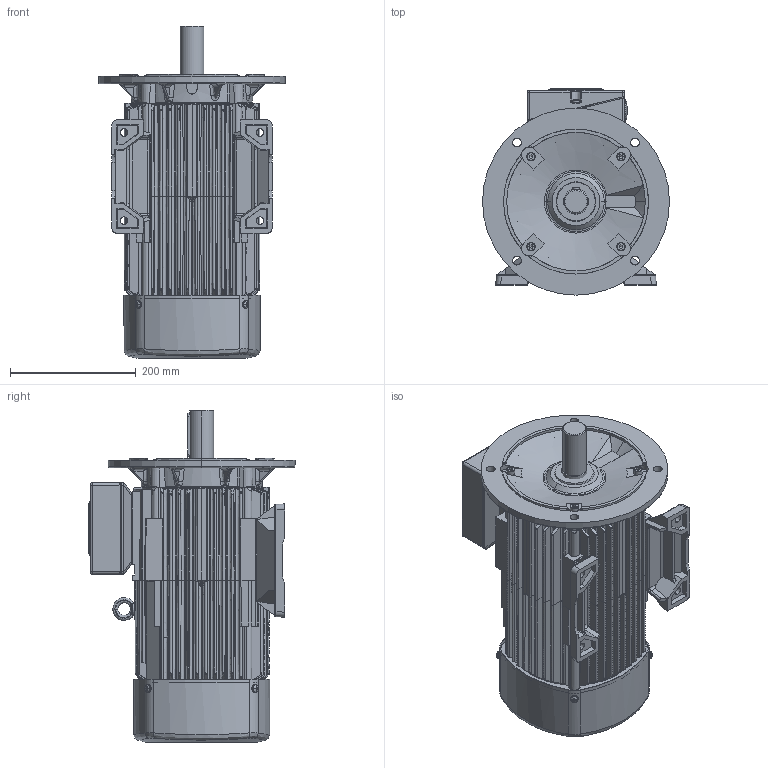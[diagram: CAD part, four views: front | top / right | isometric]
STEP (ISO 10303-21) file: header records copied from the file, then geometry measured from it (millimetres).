
FILE_DESCRIPTION (( 'STEP AP214' ), '1' );
FILE_NAME ('IE3-W43R132SX2_B35FF265_38x80.STEP', '2023-07-20T12:01:50', ( '' ), ( '' ), 'SwSTEP 2.0', 'SolidWorks 2015', '' );
FILE_SCHEMA (( 'AUTOMOTIVE_DESIGN' ));
Length unit declared in the file: millimetre
Products named in the file (6): GF112L_132S; LF112_FF265; LHB112_Kat; IE3-W43R132SX2_B35FF265_38x80; WE_Kat_38x80 (Ronde 176); KK25A
Assembly tree (5 placements, depth 2):
  IE3-W43R132SX2_B35FF265_38x80
    GF112L_132S
    LHB112_Kat
    KK25A
    WE_Kat_38x80 (Ronde 176)
    LF112_FF265
Bounding box: 296.9 x 327.45 x 527 mm (x, y, z)
Volume: 17431037.8 mm3; surface area: 1051274.1 mm2
Topology: 23 solids, 23 shells, 3401 faces, 8997 edges, 5854 vertices
Faces by surface type: plane 1683, cylinder 1053, bspline 356, cone 226, torus 65, sphere 18
Entity records: 130694 total; most frequent: CARTESIAN_POINT 43794, ORIENTED_EDGE 17940, DIRECTION 16234, EDGE_CURVE 8970, VERTEX_POINT 5854, AXIS2_PLACEMENT_3D 5728, VECTOR 4778, LINE 4778
